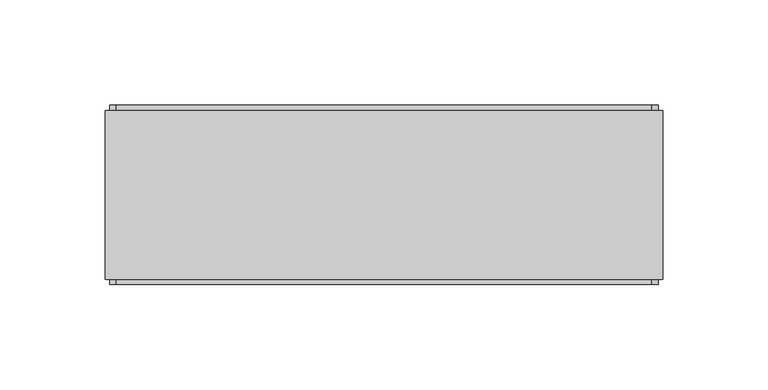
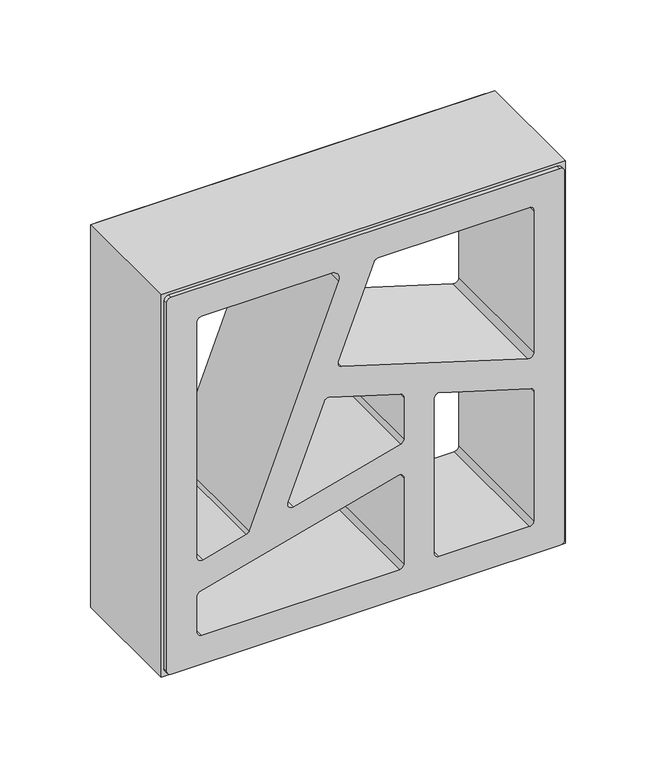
"""IFC4 building model written with IfcOpenShell, lengths in millimetres: plate geometry, PORTOBELLO - STUDIO CRAFT 6 26X26 (PAINEL CORTINA) : STUDIO CRAFT 6."""

from ifc_helpers import new_model, si_unit, point, frame, frame_2d, origin, place, context, project, spatial, polyline, circle_curve, trimmed, segment, composite_curve, outline, extrude, source, transform, mapped, element, save


def plate_8e8c4e3e(model_context):
    return source(origin(), model_context, "Body", "SweptSolid", [
        extrude(outline(composite_curve([segment(polyline([(259.0, -130.0), (5.0, -130.0)]), True, "CONTINUOUS"), segment(trimmed(circle_curve(frame_2d((5.0, -127.0)), 3.0), [point((5.0, -130.0))], [point((2.0, -127.0))], False, "CARTESIAN"), True, "CONTINUOUS"), segment(polyline([(2.0, -127.0), (2.0, 127.0)]), True, "CONTINUOUS"), segment(trimmed(circle_curve(frame_2d((5.0, 127.0)), 3.0), [point((2.0, 127.0))], [point((5.0, 130.0))], False, "CARTESIAN"), True, "CONTINUOUS"), segment(polyline([(5.0, 130.0), (259.0, 130.0)]), True, "CONTINUOUS"), segment(trimmed(circle_curve(frame_2d((259.0, 127.0)), 3.0), [point((259.0, 130.0))], [point((262.0, 127.0))], False, "CARTESIAN"), True, "CONTINUOUS"), segment(polyline([(262.0, 127.0), (262.0, -127.0)]), True, "CONTINUOUS"), segment(trimmed(circle_curve(frame_2d((259.0, -127.0)), 3.0), [point((262.0, -127.0))], [point((259.0, -130.0))], False, "CARTESIAN"), True, "CONTINUOUS")], self_intersect=False), holes=[composite_curve([segment(polyline([(113.8662816, 110.0), (25.0, 110.0)]), True, "CONTINUOUS"), segment(trimmed(circle_curve(frame_2d((25.0, 107.0)), 3.0), [point((25.0, 110.0))], [point((22.0, 107.0))], True, "CARTESIAN"), True, "CONTINUOUS"), segment(polyline([(22.0, 107.0), (22.0, 48.0)]), True, "CONTINUOUS"), segment(trimmed(circle_curve(frame_2d((25.0, 48.0)), 3.0), [point((22.0, 48.0))], [point((25.0, 45.0))], True, "CARTESIAN"), True, "CONTINUOUS"), segment(polyline([(25.0, 45.0), (131.9043919, 45.0)]), True, "CONTINUOUS"), segment(trimmed(circle_curve(frame_2d((131.9043919, 48.0)), 3.0), [point((131.9043919, 45.0))], [point((134.7733061, 48.8771151))], True, "CARTESIAN"), True, "CONTINUOUS"), segment(polyline([(134.7733061, 48.8771151), (116.7351959, 107.8771151)]), True, "CONTINUOUS"), segment(trimmed(circle_curve(frame_2d((113.8662816, 107.0)), 3.0), [point((116.7351959, 107.8771151))], [point((113.8662816, 110.0))], True, "CARTESIAN"), True, "CONTINUOUS")], self_intersect=False), composite_curve([segment(polyline([(242.0, 8.4847427), (242.0, 107.0)]), True, "CONTINUOUS"), segment(trimmed(circle_curve(frame_2d((239.0, 107.0)), 3.0), [point((242.0, 107.0))], [point((239.0, 110.0))], True, "CARTESIAN"), True, "CONTINUOUS"), segment(polyline([(239.0, 110.0), (141.0542673, 110.0)]), True, "CONTINUOUS"), segment(trimmed(circle_curve(frame_2d((141.0542673, 107.0)), 3.0), [point((141.0542673, 110.0))], [point((138.185353, 106.1228849))], True, "CARTESIAN"), True, "CONTINUOUS"), segment(polyline([(138.185353, 106.1228849), (175.4284869, -15.6939169)]), True, "CONTINUOUS"), segment(trimmed(circle_curve(frame_2d((178.2974011, -14.8168018)), 3.0), [point((175.4284869, -15.6939169))], [point((179.372505, -17.6175431))], True, "CARTESIAN"), True, "CONTINUOUS"), segment(polyline([(179.372505, -17.6175431), (240.0751038, 5.6840015)]), True, "CONTINUOUS"), segment(trimmed(circle_curve(frame_2d((239.0, 8.4847427)), 3.0), [point((240.0751038, 5.6840015))], [point((242.0, 8.4847427))], True, "CARTESIAN"), True, "CONTINUOUS")], self_intersect=False), composite_curve([segment(polyline([(76.6151997, -110.0), (239.0, -110.0)]), True, "CONTINUOUS"), segment(trimmed(circle_curve(frame_2d((239.0, -107.0)), 3.0), [point((239.0, -110.0))], [point((242.0, -107.0))], True, "CARTESIAN"), True, "CONTINUOUS"), segment(polyline([(242.0, -107.0), (242.0, -22.2750451)]), True, "CONTINUOUS"), segment(trimmed(circle_curve(frame_2d((237.0, -22.2750451)), 5.0), [point((242.0, -22.2750451))], [point((235.2081603, -17.607143))], True, "CARTESIAN"), True, "CONTINUOUS"), segment(polyline([(235.2081603, -17.607143), (83.0968094, -75.9972199)]), True, "CONTINUOUS"), segment(trimmed(circle_curve(frame_2d((84.1719132, -78.7979612)), 3.0), [point((83.0968094, -75.9972199))], [point((81.2741358, -78.0215041))], True, "CARTESIAN"), True, "CONTINUOUS"), segment(polyline([(81.2741358, -78.0215041), (73.7174222, -106.2235429)]), True, "CONTINUOUS"), segment(trimmed(circle_curve(frame_2d((76.6151997, -107.0)), 3.0), [point((73.7174222, -106.2235429))], [point((76.6151997, -110.0))], True, "CARTESIAN"), True, "CONTINUOUS")], self_intersect=False), composite_curve([segment(polyline([(22.0, 22.0), (22.0, -107.0)]), True, "CONTINUOUS"), segment(trimmed(circle_curve(frame_2d((25.0, -107.0)), 3.0), [point((22.0, -107.0))], [point((25.0, -110.0))], True, "CARTESIAN"), True, "CONTINUOUS"), segment(polyline([(25.0, -110.0), (49.698019, -110.0)]), True, "CONTINUOUS"), segment(trimmed(circle_curve(frame_2d((49.698019, -107.0)), 3.0), [point((49.698019, -110.0))], [point((52.5957965, -107.7764571))], True, "CARTESIAN"), True, "CONTINUOUS"), segment(polyline([(52.5957965, -107.7764571), (87.1612423, 21.2235429)]), True, "CONTINUOUS"), segment(trimmed(circle_curve(frame_2d((84.2634649, 22.0)), 3.0), [point((87.1612423, 21.2235429))], [point((84.2634649, 25.0))], True, "CARTESIAN"), True, "CONTINUOUS"), segment(polyline([(84.2634649, 25.0), (25.0, 25.0)]), True, "CONTINUOUS"), segment(trimmed(circle_curve(frame_2d((25.0, 22.0)), 3.0), [point((25.0, 25.0))], [point((22.0, 22.0))], True, "CARTESIAN"), True, "CONTINUOUS")], self_intersect=False), composite_curve([segment(polyline([(108.2828681, 22.7764571), (89.592002, -46.9788045)]), True, "CONTINUOUS"), segment(trimmed(circle_curve(frame_2d((92.4897795, -47.7552617)), 3.0), [point((89.592002, -46.9788045))], [point((93.5648834, -50.5560029))], True, "CARTESIAN"), True, "CONTINUOUS"), segment(polyline([(93.5648834, -50.5560029), (155.0401415, -26.9578623)]), True, "CONTINUOUS"), segment(trimmed(circle_curve(frame_2d((153.9650376, -24.157121)), 3.0), [point((155.0401415, -26.9578623))], [point((156.8339519, -23.2800059))], True, "CARTESIAN"), True, "CONTINUOUS"), segment(polyline([(156.8339519, -23.2800059), (142.7223038, 22.8771151)]), True, "CONTINUOUS"), segment(trimmed(circle_curve(frame_2d((139.8533896, 22.0)), 3.0), [point((142.7223038, 22.8771151))], [point((139.8533896, 25.0))], True, "CARTESIAN"), True, "CONTINUOUS"), segment(polyline([(139.8533896, 25.0), (111.1806456, 25.0)]), True, "CONTINUOUS"), segment(trimmed(circle_curve(frame_2d((111.1806456, 22.0)), 3.0), [point((111.1806456, 25.0))], [point((108.2828681, 22.7764571))], True, "CARTESIAN"), True, "CONTINUOUS")], self_intersect=False)]), frame((0.0, -42.5, 0.0), z_axis=(0.0, 1.0, 0.0), x_axis=(0.0, 0.0, 1.0)), (0.0, 0.0, 1.0), 85.0),
        extrude(outline(polyline([(264.0, -132.0), (0.0, -132.0), (0.0, 132.0), (264.0, 132.0), (264.0, -132.0)]), holes=[composite_curve([segment(trimmed(circle_curve(frame_2d((5.0, -127.0)), 3.0), [point((2.0, -127.0))], [point((5.0, -130.0))], True, "CARTESIAN"), True, "CONTINUOUS"), segment(polyline([(5.0, -130.0), (259.0, -130.0)]), True, "CONTINUOUS"), segment(trimmed(circle_curve(frame_2d((259.0, -127.0)), 3.0), [point((259.0, -130.0))], [point((262.0, -127.0))], True, "CARTESIAN"), True, "CONTINUOUS"), segment(polyline([(262.0, -127.0), (262.0, 127.0)]), True, "CONTINUOUS"), segment(trimmed(circle_curve(frame_2d((259.0, 127.0)), 3.0), [point((262.0, 127.0))], [point((259.0, 130.0))], True, "CARTESIAN"), True, "CONTINUOUS"), segment(polyline([(259.0, 130.0), (5.0, 130.0)]), True, "CONTINUOUS"), segment(trimmed(circle_curve(frame_2d((5.0, 127.0)), 3.0), [point((5.0, 130.0))], [point((2.0, 127.0))], True, "CARTESIAN"), True, "CONTINUOUS"), segment(polyline([(2.0, 127.0), (2.0, -127.0)]), True, "CONTINUOUS")], self_intersect=False)]), frame((0.0, -40.0, 0.0), z_axis=(0.0, 1.0, 0.0), x_axis=(0.0, 0.0, 1.0)), (0.0, 0.0, 1.0), 80.0),
    ])


if __name__ == "__main__":
    model = new_model("IFC4")
    model_context = context("Model", 3, world=origin())
    ifc_project = project(units=[si_unit("LENGTHUNIT", "METRE", prefix="MILLI")], contexts=[model_context])
    site = spatial("IfcSite", under=ifc_project)
    building = spatial("IfcBuilding", under=site)
    placement = place(None, origin())
    plate_shape = plate_8e8c4e3e(model_context)
    element("IfcPlate", 1, ObjectType="PORTOBELLO - STUDIO CRAFT 6 26X26 (PAINEL CORTINA) : STUDIO CRAFT 6", at=placement, inside=building, context=model_context, shape_type="MappedRepresentation", body=[
        mapped(plate_shape, transform((0.0, 0.0, 0.0), x_axis=(1.0, 0.0, 0.0), y_axis=(0.0, 1.0, 0.0), z_axis=(0.0, 0.0, 1.0))),
    ])
    save(model, "model.ifc")
